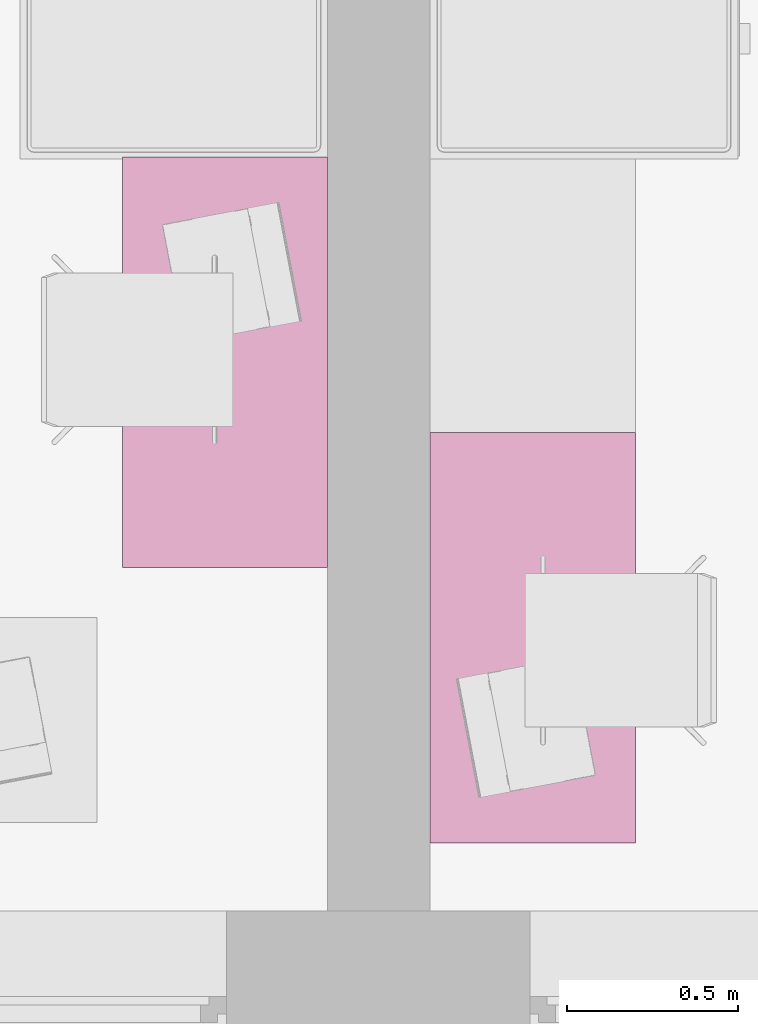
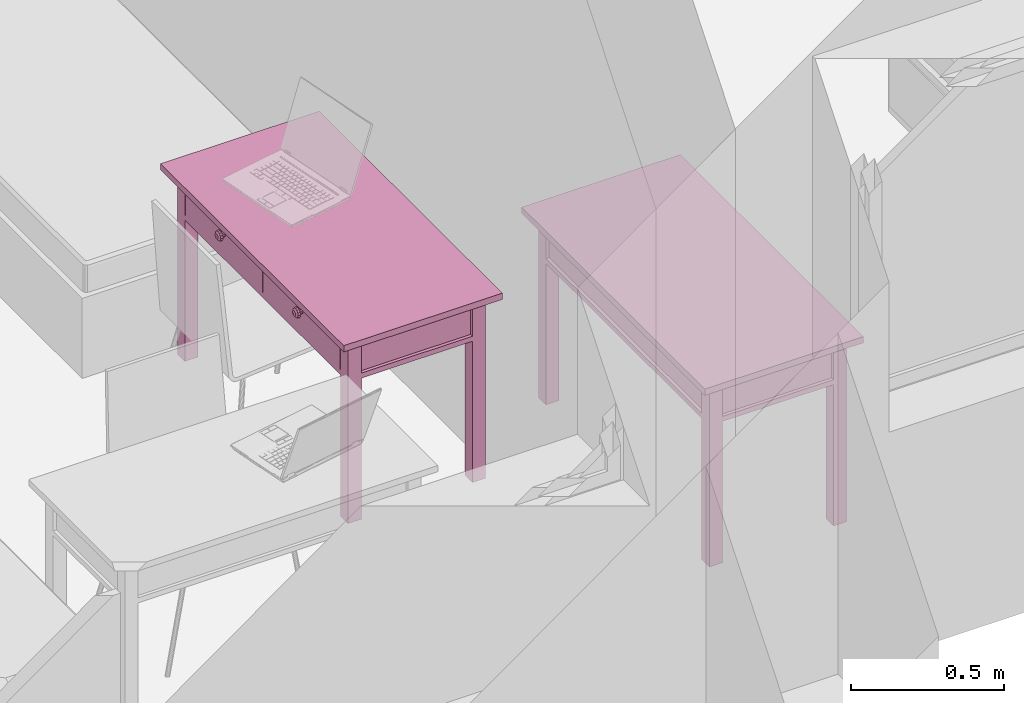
# One storey, part 105 of 172: 2 furnishings.
"""IFC2X3 building model written with IfcOpenShell, lengths in millimetres."""

from ifc_helpers import new_model, entity, si_unit, converted_unit, money_unit, direction, frame, origin_with_axes, place, context, subcontext, project, spatial, faceted_brep, source, transform, mapped, material, material_list, type_object, element, save


model = new_model("IFC2X3")

# Units and contexts
model_context = context("Model", 3, precision=1e-05, world=origin_with_axes(), true_north=direction((0.0, 1.0)))
body_context = subcontext(model_context, "Body", "Model", "MODEL_VIEW")
ifc_project = project(units=[si_unit("LENGTHUNIT", "METRE", prefix="MILLI"), si_unit("AREAUNIT", "SQUARE_METRE"), si_unit("VOLUMEUNIT", "CUBIC_METRE"), converted_unit("PLANEANGLEUNIT", "DEGREE", entity("IfcPlaneAngleMeasure", 0.0174532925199), si_unit("PLANEANGLEUNIT", "RADIAN"), dimensions=[0, 0, 0, 0, 0, 0, 0]), si_unit("SOLIDANGLEUNIT", "STERADIAN"), money_unit("USD"), converted_unit("TIMEUNIT", "Year", entity("IfcTimeMeasure", 31556926.0), si_unit("TIMEUNIT", "SECOND"), dimensions=[0, 0, 0, 0, 0, 0, 0]), si_unit("MASSUNIT", "GRAM"), si_unit("THERMODYNAMICTEMPERATUREUNIT", "DEGREE_CELSIUS"), si_unit("LUMINOUSINTENSITYUNIT", "LUMEN")], contexts=[model_context])

# Site, building, storey
site_placement = place(None, origin_with_axes())
site = spatial("IfcSite", under=ifc_project, at=site_placement, Name="Site", CompositionType="ELEMENT")
building_placement = place(site_placement, origin_with_axes())
building = spatial("IfcBuilding", under=site, at=building_placement, Name="Building", CompositionType="ELEMENT")
storey_placement = place(building_placement, frame((0.0, 0.0, 3200.0), z_axis=(0.0, 0.0, 1.0), x_axis=(1.0, 0.0, 0.0)))
storey = spatial("IfcBuildingStorey", under=building, at=storey_placement, Name="3KORRUS", CompositionType="ELEMENT", Elevation=3200.0)

# Furnishings
ifc_material = material(Name="Background")
ifc_material_list = material_list([ifc_material])
furnishing_element_type = type_object("IfcFurnishingElementType", Name="Rectangular Table 01 19")
shared_shape = source(origin_with_axes(), body_context, "Body", "Brep", [
    faceted_brep([(90.0, 40.0, 0.0), (40.0, 40.0, 0.0), (40.0, 90.0, 0.0), (90.0, 90.0, 0.0), (90.0, 40.0, 725.0), (40.0, 40.0, 725.0), (40.0, 90.0, 725.0), (90.0, 90.0, 725.0)], [[[0, 1, 2, 3]], [[1, 0, 4, 5]], [[2, 1, 5, 6]], [[3, 2, 6, 7]], [[0, 3, 7, 4]], [[5, 4, 7, 6]]]),
    faceted_brep([(1160.0, 40.0, 0.0), (1110.0, 40.0, 0.0), (1110.0, 90.0, 0.0), (1160.0, 90.0, 0.0), (1160.0, 40.0, 725.0), (1110.0, 40.0, 725.0), (1110.0, 90.0, 725.0), (1160.0, 90.0, 725.0)], [[[0, 1, 2, 3]], [[1, 0, 4, 5]], [[2, 1, 5, 6]], [[3, 2, 6, 7]], [[0, 3, 7, 4]], [[5, 4, 7, 6]]]),
    faceted_brep([(90.0, 510.0, 0.0), (40.0, 510.0, 0.0), (40.0, 560.0, 0.0), (90.0, 560.0, 0.0), (90.0, 510.0, 725.0), (40.0, 510.0, 725.0), (40.0, 560.0, 725.0), (90.0, 560.0, 725.0)], [[[0, 1, 2, 3]], [[1, 0, 4, 5]], [[2, 1, 5, 6]], [[3, 2, 6, 7]], [[0, 3, 7, 4]], [[5, 4, 7, 6]]]),
    faceted_brep([(1160.0, 510.0, 0.0), (1110.0, 510.0, 0.0), (1110.0, 560.0, 0.0), (1160.0, 560.0, 0.0), (1160.0, 510.0, 725.0), (1110.0, 510.0, 725.0), (1110.0, 560.0, 725.0), (1160.0, 560.0, 725.0)], [[[0, 1, 2, 3]], [[1, 0, 4, 5]], [[2, 1, 5, 6]], [[3, 2, 6, 7]], [[0, 3, 7, 4]], [[5, 4, 7, 6]]]),
    faceted_brep([(1160.0, 40.0, 565.0), (40.0, 40.0, 565.0), (40.0, 560.0, 565.0), (1160.0, 560.0, 565.0), (1160.0, 40.0, 585.0), (40.0, 40.0, 585.0), (40.0, 560.0, 585.0), (1160.0, 560.0, 585.0)], [[[0, 1, 2, 3]], [[1, 0, 4, 5]], [[2, 1, 5, 6]], [[3, 2, 6, 7]], [[0, 3, 7, 4]], [[5, 4, 7, 6]]]),
    faceted_brep([(1110.0, 52.5, 585.0), (90.0, 52.5, 585.0), (90.0, 77.5, 585.0), (1110.0, 77.5, 585.0), (1110.0, 52.5, 745.0), (90.0, 52.5, 745.0), (90.0, 77.5, 745.0), (1110.0, 77.5, 745.0)], [[[0, 1, 2, 3]], [[1, 0, 4, 5]], [[2, 1, 5, 6]], [[3, 2, 6, 7]], [[0, 3, 7, 4]], [[5, 4, 7, 6]]]),
    faceted_brep([(77.5, 90.0, 585.0), (52.5, 90.0, 585.0), (52.5, 510.0, 585.0), (77.5, 510.0, 585.0), (77.5, 90.0, 745.0), (52.5, 90.0, 745.0), (52.5, 510.0, 745.0), (77.5, 510.0, 745.0)], [[[0, 1, 2, 3]], [[1, 0, 4, 5]], [[2, 1, 5, 6]], [[3, 2, 6, 7]], [[0, 3, 7, 4]], [[5, 4, 7, 6]]]),
    faceted_brep([(90.0, 547.5, 585.0), (1110.0, 547.5, 585.0), (1110.0, 522.5, 585.0), (90.0, 522.5, 585.0), (90.0, 547.5, 745.0), (1110.0, 547.5, 745.0), (1110.0, 522.5, 745.0), (90.0, 522.5, 745.0)], [[[0, 1, 2, 3]], [[1, 0, 4, 5]], [[2, 1, 5, 6]], [[3, 2, 6, 7]], [[0, 3, 7, 4]], [[5, 4, 7, 6]]]),
    faceted_brep([(1122.5, 510.0, 585.0), (1147.5, 510.0, 585.0), (1147.5, 90.0, 585.0), (1122.5, 90.0, 585.0), (1122.5, 510.0, 745.0), (1147.5, 510.0, 745.0), (1147.5, 90.0, 745.0), (1122.5, 90.0, 745.0)], [[[0, 1, 2, 3]], [[1, 0, 4, 5]], [[2, 1, 5, 6]], [[3, 2, 6, 7]], [[0, 3, 7, 4]], [[5, 4, 7, 6]]]),
    faceted_brep([(597.5, 40.0, 585.0), (95.0, 40.0, 585.0), (95.0, 60.0, 585.0), (597.5, 60.0, 585.0), (597.5, 40.0, 745.0), (95.0, 40.0, 745.0), (95.0, 60.0, 745.0), (597.5, 60.0, 745.0)], [[[0, 1, 2, 3]], [[1, 0, 4, 5]], [[2, 1, 5, 6]], [[3, 2, 6, 7]], [[0, 3, 7, 4]], [[5, 4, 7, 6]]]),
    faceted_brep([(1105.0, 40.0, 585.0), (602.5, 40.0, 585.0), (602.5, 60.0, 585.0), (1105.0, 60.0, 585.0), (1105.0, 40.0, 745.0), (602.5, 40.0, 745.0), (602.5, 60.0, 745.0), (1105.0, 60.0, 745.0)], [[[0, 1, 2, 3]], [[1, 0, 4, 5]], [[2, 1, 5, 6]], [[3, 2, 6, 7]], [[0, 3, 7, 4]], [[5, 4, 7, 6]]]),
    faceted_brep([(354.91, 40.0, 660.0), (351.25, 40.0, 656.34), (346.25, 40.0, 655.0), (341.25, 40.0, 656.34), (337.59, 40.0, 660.0), (336.25, 40.0, 665.0), (337.59, 40.0, 670.0), (341.25, 40.0, 673.66), (346.25, 40.0, 675.0), (351.25, 40.0, 673.66), (354.91, 40.0, 670.0), (356.25, 40.0, 665.0), (354.91, 25.0, 660.0), (351.25, 25.0, 656.34), (346.25, 25.0, 655.0), (341.25, 25.0, 656.34), (337.59, 25.0, 660.0), (336.25, 25.0, 665.0), (337.59, 25.0, 670.0), (341.25, 25.0, 673.66), (346.25, 25.0, 675.0), (351.25, 25.0, 673.66), (354.91, 25.0, 670.0), (356.25, 25.0, 665.0)], [[[0, 1, 2, 3, 4, 5, 6, 7, 8, 9, 10, 11]], [[1, 0, 12, 13]], [[2, 1, 13, 14]], [[3, 2, 14, 15]], [[4, 3, 15, 16]], [[5, 4, 16, 17]], [[6, 5, 17, 18]], [[7, 6, 18, 19]], [[8, 7, 19, 20]], [[9, 8, 20, 21]], [[10, 9, 21, 22]], [[11, 10, 22, 23]], [[0, 11, 23, 12]], [[12, 23, 22, 21, 20, 19, 18, 17, 16, 15, 14, 13]]]),
    faceted_brep([(356.25, 12.01, 665.0), (346.25, 10.0, 665.0), (354.91, 12.01, 660.0), (354.91, 12.01, 670.0), (351.25, 12.01, 656.34), (363.571, 17.5, 665.0), (361.25, 17.5, 656.34), (351.25, 12.01, 673.66), (361.25, 17.5, 673.66), (346.25, 12.01, 655.0), (354.91, 17.5, 650.0), (366.25, 25.0, 665.0), (363.571, 25.0, 655.0), (346.25, 12.01, 675.0), (354.91, 17.5, 680.0), (363.571, 25.0, 675.0), (341.25, 12.01, 656.34), (346.25, 17.5, 647.679), (356.25, 25.0, 647.679), (346.25, 25.0, 645.0), (336.25, 25.0, 647.679), (328.929, 25.0, 655.0), (326.25, 25.0, 665.0), (328.929, 25.0, 675.0), (336.25, 25.0, 682.321), (346.25, 25.0, 685.0), (356.25, 25.0, 682.321), (341.25, 12.01, 673.66), (346.25, 17.5, 682.321), (337.59, 12.01, 660.0), (337.59, 17.5, 650.0), (331.25, 17.5, 656.34), (328.929, 17.5, 665.0), (331.25, 17.5, 673.66), (337.59, 17.5, 680.0), (337.59, 12.01, 670.0), (336.25, 12.01, 665.0)], [[[0, 1, 2]], [[3, 1, 0]], [[2, 1, 4]], [[5, 0, 2, 6]], [[7, 1, 3]], [[8, 3, 0, 5]], [[4, 1, 9]], [[6, 2, 4, 10]], [[11, 5, 6, 12]], [[13, 1, 7]], [[14, 7, 3, 8]], [[15, 8, 5, 11]], [[9, 1, 16]], [[10, 4, 9, 17]], [[12, 6, 10, 18]], [[12, 18, 19, 20, 21, 22, 23, 24, 25, 26, 15, 11]], [[27, 1, 13]], [[28, 13, 7, 14]], [[26, 14, 8, 15]], [[16, 1, 29]], [[17, 9, 16, 30]], [[18, 10, 17, 19]], [[19, 17, 30, 20]], [[20, 30, 31, 21]], [[21, 31, 32, 22]], [[22, 32, 33, 23]], [[23, 33, 34, 24]], [[24, 34, 28, 25]], [[25, 28, 14, 26]], [[35, 1, 27]], [[34, 27, 13, 28]], [[29, 1, 36]], [[30, 16, 29, 31]], [[31, 29, 36, 32]], [[32, 36, 35, 33]], [[33, 35, 27, 34]], [[36, 1, 35]]]),
    faceted_brep([(862.41, 40.0, 660.0), (858.75, 40.0, 656.34), (853.75, 40.0, 655.0), (848.75, 40.0, 656.34), (845.09, 40.0, 660.0), (843.75, 40.0, 665.0), (845.09, 40.0, 670.0), (848.75, 40.0, 673.66), (853.75, 40.0, 675.0), (858.75, 40.0, 673.66), (862.41, 40.0, 670.0), (863.75, 40.0, 665.0), (862.41, 25.0, 660.0), (858.75, 25.0, 656.34), (853.75, 25.0, 655.0), (848.75, 25.0, 656.34), (845.09, 25.0, 660.0), (843.75, 25.0, 665.0), (845.09, 25.0, 670.0), (848.75, 25.0, 673.66), (853.75, 25.0, 675.0), (858.75, 25.0, 673.66), (862.41, 25.0, 670.0), (863.75, 25.0, 665.0)], [[[0, 1, 2, 3, 4, 5, 6, 7, 8, 9, 10, 11]], [[1, 0, 12, 13]], [[2, 1, 13, 14]], [[3, 2, 14, 15]], [[4, 3, 15, 16]], [[5, 4, 16, 17]], [[6, 5, 17, 18]], [[7, 6, 18, 19]], [[8, 7, 19, 20]], [[9, 8, 20, 21]], [[10, 9, 21, 22]], [[11, 10, 22, 23]], [[0, 11, 23, 12]], [[12, 23, 22, 21, 20, 19, 18, 17, 16, 15, 14, 13]]]),
    faceted_brep([(863.75, 12.01, 665.0), (853.75, 10.0, 665.0), (862.41, 12.01, 660.0), (862.41, 12.01, 670.0), (858.75, 12.01, 656.34), (871.071, 17.5, 665.0), (868.75, 17.5, 656.34), (858.75, 12.01, 673.66), (868.75, 17.5, 673.66), (853.75, 12.01, 655.0), (862.41, 17.5, 650.0), (873.75, 25.0, 665.0), (871.071, 25.0, 655.0), (853.75, 12.01, 675.0), (862.41, 17.5, 680.0), (871.071, 25.0, 675.0), (848.75, 12.01, 656.34), (853.75, 17.5, 647.679), (863.75, 25.0, 647.679), (853.75, 25.0, 645.0), (843.75, 25.0, 647.679), (836.429, 25.0, 655.0), (833.75, 25.0, 665.0), (836.429, 25.0, 675.0), (843.75, 25.0, 682.321), (853.75, 25.0, 685.0), (863.75, 25.0, 682.321), (848.75, 12.01, 673.66), (853.75, 17.5, 682.321), (845.09, 12.01, 660.0), (845.09, 17.5, 650.0), (838.75, 17.5, 656.34), (836.429, 17.5, 665.0), (838.75, 17.5, 673.66), (845.09, 17.5, 680.0), (845.09, 12.01, 670.0), (843.75, 12.01, 665.0)], [[[0, 1, 2]], [[3, 1, 0]], [[2, 1, 4]], [[5, 0, 2, 6]], [[7, 1, 3]], [[8, 3, 0, 5]], [[4, 1, 9]], [[6, 2, 4, 10]], [[11, 5, 6, 12]], [[13, 1, 7]], [[14, 7, 3, 8]], [[15, 8, 5, 11]], [[9, 1, 16]], [[10, 4, 9, 17]], [[12, 6, 10, 18]], [[12, 18, 19, 20, 21, 22, 23, 24, 25, 26, 15, 11]], [[27, 1, 13]], [[28, 13, 7, 14]], [[26, 14, 8, 15]], [[16, 1, 29]], [[17, 9, 16, 30]], [[18, 10, 17, 19]], [[19, 17, 30, 20]], [[20, 30, 31, 21]], [[21, 31, 32, 22]], [[22, 32, 33, 23]], [[23, 33, 34, 24]], [[24, 34, 28, 25]], [[25, 28, 14, 26]], [[35, 1, 27]], [[34, 27, 13, 28]], [[29, 1, 36]], [[30, 16, 29, 31]], [[31, 29, 36, 32]], [[32, 36, 35, 33]], [[33, 35, 27, 34]], [[36, 1, 35]]]),
    faceted_brep([(1200.0, 0.0, 725.0), (0.0, 0.0, 725.0), (0.0, 600.0, 725.0), (1200.0, 600.0, 725.0), (1200.0, 0.0, 750.0), (0.0, 0.0, 750.0), (0.0, 600.0, 750.0), (1200.0, 600.0, 750.0)], [[[0, 1, 2, 3]], [[1, 0, 4, 5]], [[2, 1, 5, 6]], [[3, 2, 6, 7]], [[0, 3, 7, 4]], [[5, 4, 7, 6]]]),
])
for number, where, z_axis, x_axis, name in (
    (1, (-24890.2967033, -17433.2103596, 0.0), (0.0, 0.0, 1.0), (0.0, -1.0, 0.0), "FU - 011"),
    (2, (-23390.2967033, -19439.2398994, 0.0), (0.0, 0.0, 1.0), (0.0, 1.0, 0.0), "FU - 011"),
):
    element("IfcFurnishingElement", number, at=place(storey_placement, frame(where, z_axis=z_axis, x_axis=x_axis)), inside=storey, type_object=furnishing_element_type, material=ifc_material_list, Name=name, context=body_context, shape_type="MappedRepresentation", body=[
        mapped(shared_shape, transform((0.0, 0.0, 0.0))),
    ])

save(model, "model.ifc")
